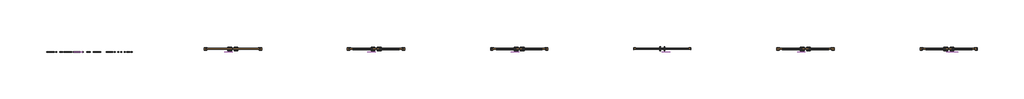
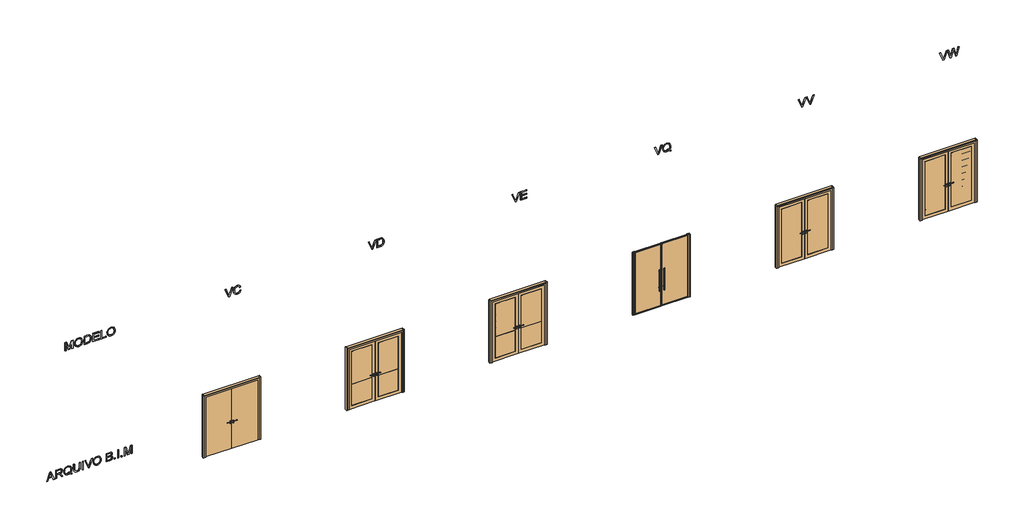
# One storey: 8 proxies, 6 doors.
"""IFC4 building model written with IfcOpenShell, lengths in millimetres."""

from ifc_helpers import new_model, si_unit, frame, origin, place, context, project, spatial, polyline, outline, extrude, transform, mapped, element, save
from components import vc_ec550be7, vd_505fe819, ve_1859068e, vq_b7f1955d, vv_b9688fd8, vw_93026b2b

model = new_model("IFC4")

# Units and contexts
model_context = context("Model", 3, world=origin())
ifc_project = project(units=[si_unit("LENGTHUNIT", "METRE", prefix="MILLI")], contexts=[model_context])

# Site, building, storey
site = spatial("IfcSite", under=ifc_project)
building = spatial("IfcBuilding", under=site)
storey = spatial("IfcBuildingStorey", under=building, Name="06 - Marelli - Planta Baixa - Porta de Giro (02 Folhas)", Elevation=60000.0)

# Proxies
placement = place(None, origin())
element("IfcBuildingElementProxy", 1, Name="300mm Arial", ObjectType="300mm Arial", at=placement, inside=storey, context=model_context, shape_type="SweptSolid", body=[
    extrude(outline(polyline([(61100.0, -7636.3146377), (61100.0, -7596.5098058), (61194.1777908, -7562.076051), (61194.1777908, -7437.9526659), (61100.0, -7403.4453347), (61100.0, -7363.6405028), (61401.3689304, -7483.9379153), (61401.3689304, -7516.0172252), (61100.0, -7636.3146377)]), holes=[polyline([(61231.8489071, -7548.243688), (61312.415064, -7518.739552), (61363.6978141, -7499.9775703), (61305.9403409, -7478.8611437), (61231.8489071, -7451.7114525), (61231.8489071, -7548.243688)])]), frame((0.0, 8778.3159498, 0.0), z_axis=(0.0, 1.0, 0.0), x_axis=(0.0, 0.0, 1.0)), (0.0, 0.0, 1.0), 10.0),
    extrude(outline(polyline([(61100.0, -7323.3942126), (61100.0, -7285.7230963), (61231.8489071, -7285.7230963), (61231.8489071, -7240.2528817), (61230.5245319, -7218.4006911), (61223.350833, -7200.484838), (61203.816299, -7180.582422), (61162.4663628, -7152.2555084), (61100.0, -7113.0392877), (61100.0, -7069.2613303), (61181.6698029, -7119.5140108), (61220.4445652, -7150.0482164), (61236.5577966, -7171.4589486), (61246.5457928, -7134.3488523), (61254.5610217, -7119.9669655), (61264.5904046, -7108.3671864), (61289.2017101, -7093.0540983), (61318.8897871, -7087.9497357), (61342.7561316, -7091.0307474), (61364.4703663, -7100.2737825), (61381.9815493, -7114.6763626), (61393.2387384, -7133.2360093), (61399.3363824, -7158.629064), (61401.3689304, -7193.5318683), (61401.3689304, -7323.3942126), (61100.0, -7323.3942126)]), holes=[polyline([(61269.5200234, -7285.7230963), (61363.6978141, -7285.7230963), (61363.6978141, -7191.9131875), (61360.4420585, -7162.1055488), (61350.6747915, -7141.5501423), (61335.8675412, -7129.6031746), (61317.4918355, -7125.620852), (61304.1837044, -7127.7085823), (61291.9240369, -7133.9717732), (61281.7888879, -7144.254075), (61274.8543123, -7158.3991377), (61270.8535956, -7177.1887106), (61269.5200234, -7201.404543), (61269.5200234, -7285.7230963)])]), frame((0.0, 8778.3159498, 0.0), z_axis=(0.0, 1.0, 0.0), x_axis=(0.0, 0.0, 1.0)), (0.0, 0.0, 1.0), 10.0),
    extrude(outline(polyline([(61136.1260119, -6795.6307023), (61159.6520655, -6777.1814202), (61186.9673037, -6764.0664271), (61218.0349382, -6756.2305406), (61252.8181808, -6753.6185784), (61294.6463636, -6757.9227978), (61331.9863862, -6770.8354558), (61363.1827793, -6791.9610794), (61386.5800742, -6820.9041954), (61401.2033836, -6855.7702114), (61406.07782, -6894.6645354), (61401.3137481, -6933.2553567), (61387.0215326, -6967.9466288), (61363.6150407, -6996.93573), (61331.5081396, -7018.4200386), (61293.055274, -7031.7189727), (61250.6108888, -7036.1519507), (61208.2032918, -7031.7097756), (61170.3022493, -7018.3832504), (61138.6460036, -6996.8161684), (61114.9727972, -6967.6523232), (61100.2115321, -6932.8322924), (61095.2911105, -6894.2966534), (61099.5585416, -6855.9449554), (61112.360835, -6821.0881364), (61091.52032, -6790.1308665), (61077.1177399, -6759.063232), (61104.7088895, -6748.9096889), (61117.5295771, -6771.2953083), (61136.1260119, -6795.6307023)]), holes=[polyline([(61186.2315397, -6883.9223811), (61157.3895912, -6893.6344658), (61150.712533, -6873.2721974), (61140.6877487, -6853.9767867), (61134.8936072, -6873.6032912), (61132.9622268, -6894.5173826), (61134.8637168, -6916.2385151), (61140.568187, -6935.9316982), (61150.0756373, -6953.5969318), (61163.3860678, -6969.2342158), (61180.251158, -6982.0296115), (61200.4225876, -6991.1691798), (61223.9003567, -6996.6529208), (61250.6844652, -6998.4808344), (61278.1859436, -6996.6322274), (61302.0499888, -6991.0864063), (61322.2766007, -6981.8433712), (61338.8657795, -6968.903122), (61351.7899338, -6953.1577726), (61361.0214726, -6935.4994369), (61366.5603959, -6915.9281147), (61368.4067037, -6894.4438062), (61364.7554749, -6865.9605427), (61353.8017885, -6840.4019411), (61336.2354232, -6819.2027411), (61312.7461578, -6803.7976826), (61284.0605592, -6794.4166917), (61250.9051944, -6791.2896947), (61221.7321522, -6793.5015852), (61196.4586591, -6800.1372567), (61175.0847152, -6811.1967092), (61157.6103204, -6826.6799427), (61174.2569807, -6852.2477413), (61186.2315397, -6883.9223811)])]), frame((0.0, 8778.3159498, 0.0), z_axis=(0.0, 1.0, 0.0), x_axis=(0.0, 0.0, 1.0)), (0.0, 0.0, 1.0), 10.0),
    extrude(outline(polyline([(61401.3689304, -6499.3385434), (61228.8322747, -6499.3385434), (61181.6698029, -6504.1026152), (61164.9311721, -6510.057705), (61152.7542781, -6518.3948307), (61144.0952556, -6529.5278596), (61137.9102396, -6543.8706589), (61132.9622268, -6582.1855687), (61135.4638243, -6606.3554158), (61142.968617, -6626.4785609), (61155.0811317, -6641.9112106), (61171.4058953, -6652.0095714), (61194.9779341, -6657.5829836), (61228.8322747, -6659.4407877), (61401.3689304, -6659.4407877), (61401.3689304, -6697.111904), (61227.5078995, -6697.111904), (61184.7324205, -6694.2516215), (61152.0553023, -6685.6707739), (61127.6923172, -6670.4036711), (61109.8592375, -6647.4846228), (61098.9331422, -6616.904432), (61095.2911105, -6578.6539015), (61099.4757682, -6539.5480454), (61112.0297412, -6508.7563224), (61131.2515755, -6486.2235502), (61155.4398167, -6471.8945465), (61186.7925597, -6464.2242069), (61227.5078995, -6461.6674271), (61401.3689304, -6461.6674271), (61401.3689304, -6499.3385434)])), frame((0.0, 8778.3159498, 0.0), z_axis=(0.0, 1.0, 0.0), x_axis=(0.0, 0.0, 1.0)), (0.0, 0.0, 1.0), 10.0),
    extrude(outline(polyline([(-6353.3629677, 8778.3159498), (-6391.034084, 8778.3159498), (-6391.034084, 8788.3159498), (-6353.3629677, 8788.3159498), (-6353.3629677, 8778.3159498)])), frame((0.0, 0.0, 61100.0), z_axis=(0.0, 0.0, 1.0), x_axis=(1.0, 0.0, 0.0)), (0.0, 0.0, 1.0), 301.3689304),
    extrude(outline(polyline([(61100.0, -6188.9932922), (61100.0, -6150.0713771), (61401.3689304, -6035.2186183), (61401.3689304, -6075.5384849), (61184.2449769, -6156.0310655), (61135.3166715, -6172.0707205), (61184.2449769, -6188.3311046), (61401.3689304, -6268.602956), (61401.3689304, -6308.9228227), (61100.0, -6188.9932922)])), frame((0.0, 8778.3159498, 0.0), z_axis=(0.0, 1.0, 0.0), x_axis=(0.0, 0.0, 1.0)), (0.0, 0.0, 1.0), 10.0),
    extrude(outline(polyline([(61246.7113397, -6014.3229209), (61208.1665036, -6010.0187016), (61171.7002009, -5997.1060436), (61140.007167, -5975.8424642), (61115.7821376, -5946.485481), (61100.4138672, -5910.8377157), (61095.2911105, -5870.70179), (61099.9264236, -5832.892718), (61113.832363, -5797.7507904), (61136.7514113, -5767.7868019), (61168.4260511, -5745.5115471), (61206.8881137, -5731.6883811), (61250.1694304, -5727.0806591), (61292.8805301, -5731.4584548), (61330.8091638, -5744.5918421), (61362.4286213, -5766.0761506), (61386.2121922, -5795.5067102), (61401.1114131, -5830.9521404), (61406.07782, -5870.4810608), (61403.4336681, -5900.7715446), (61395.5012126, -5928.1465636), (61382.2804534, -5952.6061177), (61363.7713905, -5974.1502071), (61340.5902263, -5991.7257694), (61313.3531631, -6004.2797425), (61282.0602009, -6011.8121263), (61246.7113397, -6014.3229209)]), holes=[polyline([(61246.3434577, -5976.6518046), (61276.8799625, -5974.6882345), (61302.7121764, -5968.797524), (61323.8400992, -5958.9796733), (61340.263731, -5945.2346822), (61352.5762816, -5928.7673644), (61361.3709605, -5910.7825334), (61366.6477679, -5891.2801891), (61368.4067037, -5870.2603316), (61364.7554749, -5841.0964864), (61353.8017885, -5814.9676677), (61336.2078321, -5793.3086153), (61312.6357932, -5777.5540688), (61283.8122389, -5767.9523488), (61250.463736, -5764.7517754), (61223.9256486, -5766.6210758), (61200.5973316, -5772.228977), (61180.478785, -5781.5754789), (61163.5700088, -5794.6605816), (61150.1791041, -5810.642755), (61140.6141723, -5828.6804691), (61134.8752131, -5848.7737238), (61132.9622268, -5870.9225192), (61134.856819, -5892.6988341), (61140.5405959, -5912.557564), (61150.0135572, -5930.4987091), (61163.2757032, -5946.5222692), (61179.8349915, -5959.703941), (61199.19938, -5969.1194208), (61221.3688687, -5974.7687087), (61246.3434577, -5976.6518046)])]), frame((0.0, 8778.3159498, 0.0), z_axis=(0.0, 1.0, 0.0), x_axis=(0.0, 0.0, 1.0)), (0.0, 0.0, 1.0), 10.0),
    extrude(outline(polyline([(61100.0, -5557.5606357), (61100.0, -5443.4436408), (61105.1871361, -5395.1407348), (61111.6066769, -5377.10532), (61120.4910271, -5362.3624491), (61132.7598917, -5350.3235108), (61149.3329756, -5340.399894), (61168.8215242, -5333.7504269), (61189.8367832, -5331.5339379), (61215.055094, -5334.7804965), (61236.7049494, -5344.5201723), (61253.6643094, -5360.2931129), (61264.8111338, -5381.6394656), (61276.5557665, -5363.7695977), (61291.4825785, -5351.0684718), (61308.543106, -5343.4809057), (61326.6888854, -5340.951717), (61346.4073604, -5343.9591523), (61365.2429185, -5352.9814582), (61381.2549824, -5367.3104619), (61392.5029744, -5386.2379906), (61399.1524414, -5410.9320695), (61401.3689304, -5442.560724), (61401.3689304, -5557.5606357), (61100.0, -5557.5606357)]), holes=[polyline([(61278.9378025, -5519.8895194), (61363.6978141, -5519.8895194), (61363.6978141, -5456.3195106), (61359.7614768, -5407.9062401), (61354.1604734, -5395.4166463), (61345.230138, -5386.2012024), (61333.7890079, -5380.5174255), (61320.6556207, -5378.6228333), (61307.1267603, -5380.6553813), (61296.1178916, -5386.7530254), (61287.7577733, -5396.8605832), (61282.175164, -5410.9228724), (61278.9378025, -5451.0955863), (61278.9378025, -5519.8895194)]), polyline([(61137.6711163, -5519.8895194), (61241.2666861, -5519.8895194), (61241.2666861, -5446.3131204), (61240.0066903, -5419.4853259), (61236.2267028, -5399.776048), (61229.3381125, -5385.8609115), (61218.752308, -5376.4155413), (61205.2142506, -5371.007676), (61189.4689012, -5369.2050542), (61175.9124497, -5370.7409615), (61164.0850436, -5375.3486835), (61147.3464128, -5391.0204565), (61139.1426443, -5414.6752688), (61137.6711163, -5442.6343004), (61137.6711163, -5519.8895194)])]), frame((0.0, 8778.3159498, 0.0), z_axis=(0.0, 1.0, 0.0), x_axis=(0.0, 0.0, 1.0)), (0.0, 0.0, 1.0), 10.0),
    extrude(outline(polyline([(-5237.3561471, 8778.3159498), (-5275.0272634, 8778.3159498), (-5275.0272634, 8788.3159498), (-5237.3561471, 8788.3159498), (-5237.3561471, 8778.3159498)])), frame((0.0, 0.0, 61100.0), z_axis=(0.0, 0.0, 1.0), x_axis=(1.0, 0.0, 0.0)), (0.0, 0.0, 1.0), 37.6711163),
    extrude(outline(polyline([(-5119.6339087, 8778.3159498), (-5157.305025, 8778.3159498), (-5157.305025, 8788.3159498), (-5119.6339087, 8788.3159498), (-5119.6339087, 8778.3159498)])), frame((0.0, 0.0, 61100.0), z_axis=(0.0, 0.0, 1.0), x_axis=(1.0, 0.0, 0.0)), (0.0, 0.0, 1.0), 301.3689304),
    extrude(outline(polyline([(-5001.9116702, 8778.3159498), (-5039.5827865, 8778.3159498), (-5039.5827865, 8788.3159498), (-5001.9116702, 8788.3159498), (-5001.9116702, 8778.3159498)])), frame((0.0, 0.0, 61100.0), z_axis=(0.0, 0.0, 1.0), x_axis=(1.0, 0.0, 0.0)), (0.0, 0.0, 1.0), 37.6711163),
    extrude(outline(polyline([(61100.0, -4926.5694376), (61100.0, -4888.8983213), (61363.6978141, -4888.8983213), (61100.0, -4813.1882067), (61100.0, -4762.1261857), (61363.6978141, -4686.4160711), (61100.0, -4686.4160711), (61100.0, -4648.7449548), (61401.3689304, -4648.7449548), (61401.3689304, -4713.5657624), (61192.6326864, -4774.1927152), (61144.5872978, -4787.6571962), (61188.9538664, -4800.0916076), (61401.3689304, -4861.74863), (61401.3689304, -4926.5694376), (61100.0, -4926.5694376)])), frame((0.0, 8778.3159498, 0.0), z_axis=(0.0, 1.0, 0.0), x_axis=(0.0, 0.0, 1.0)), (0.0, 0.0, 1.0), 10.0),
])
element("IfcBuildingElementProxy", 2, Name="300mm Arial", ObjectType="300mm Arial", at=placement, inside=storey, context=model_context, shape_type="SweptSolid", body=[
    extrude(outline(polyline([(65700.0, -6993.7719449), (65700.0, -6956.1008286), (65963.6978141, -6956.1008286), (65700.0, -6880.390714), (65700.0, -6829.328693), (65963.6978141, -6753.6185784), (65700.0, -6753.6185784), (65700.0, -6715.9474621), (66001.3689304, -6715.9474621), (66001.3689304, -6780.7682697), (65792.6326864, -6841.3952225), (65744.5872978, -6854.8597035), (65788.9538664, -6867.2941149), (66001.3689304, -6928.9511373), (66001.3689304, -6993.7719449), (65700.0, -6993.7719449)])), frame((0.0, 8778.3159498, 0.0), z_axis=(0.0, 1.0, 0.0), x_axis=(0.0, 0.0, 1.0)), (0.0, 0.0, 1.0), 10.0),
    extrude(outline(polyline([(65846.7113397, -6664.1496772), (65808.1665036, -6659.8454579), (65771.7002009, -6646.9327998), (65740.007167, -6625.6692205), (65715.7821376, -6596.3122373), (65700.4138672, -6560.664472), (65695.2911105, -6520.5285463), (65699.9264236, -6482.7194742), (65713.832363, -6447.5775466), (65736.7514113, -6417.6135581), (65768.4260511, -6395.3383033), (65806.8881137, -6381.5151374), (65850.1694304, -6376.9074154), (65892.8805301, -6381.2852111), (65930.8091638, -6394.4185983), (65962.4286213, -6415.9029069), (65986.2121922, -6445.3334665), (66001.1114131, -6480.7788967), (66006.07782, -6520.3078171), (66003.4336681, -6550.5983009), (65995.5012126, -6577.9733198), (65982.2804534, -6602.432874), (65963.7713905, -6623.9769633), (65940.5902263, -6641.5525257), (65913.3531631, -6654.1064987), (65882.0602009, -6661.6388826), (65846.7113397, -6664.1496772)]), holes=[polyline([(65846.3434577, -6626.4785609), (65876.8799625, -6624.5149908), (65902.7121764, -6618.6242803), (65923.8400992, -6608.8064296), (65940.263731, -6595.0614385), (65952.5762816, -6578.5941207), (65961.3709605, -6560.6092897), (65966.6477679, -6541.1069454), (65968.4067037, -6520.0870879), (65964.7554749, -6490.9232427), (65953.8017885, -6464.794424), (65936.2078321, -6443.1353716), (65912.6357932, -6427.3808251), (65883.8122389, -6417.779105), (65850.463736, -6414.5785317), (65823.9256486, -6416.4478321), (65800.5973316, -6422.0557332), (65780.478785, -6431.4022352), (65763.5700088, -6444.4873379), (65750.1791041, -6460.4695113), (65740.6141723, -6478.5072254), (65734.8752131, -6498.6004801), (65732.9622268, -6520.7492755), (65734.856819, -6542.5255903), (65740.5405959, -6562.3843203), (65750.0135572, -6580.3254653), (65763.2757032, -6596.3490255), (65779.8349915, -6609.5306972), (65799.19938, -6618.9461771), (65821.3688687, -6624.5954649), (65846.3434577, -6626.4785609)])]), frame((0.0, 8778.3159498, 0.0), z_axis=(0.0, 1.0, 0.0), x_axis=(0.0, 0.0, 1.0)), (0.0, 0.0, 1.0), 10.0),
    extrude(outline(polyline([(65700.0, -6325.1096305), (65700.0, -6216.1429835), (65705.1503479, -6167.6929247), (65711.5055094, -6148.1491937), (65720.2702979, -6131.6772774), (65732.088507, -6117.3298796), (65747.6039302, -6104.1597042), (65767.2580258, -6092.7185741), (65791.4922522, -6083.5583124), (65819.9571216, -6077.5434418), (65852.303146, -6075.5384849), (65890.3789325, -6078.499935), (65923.9665587, -6087.3842852), (65952.5142015, -6102.2283237), (65975.470038, -6123.0688387), (65988.6586075, -6143.3391366), (65997.0279229, -6167.3618309), (66001.3689304, -6221.1461786), (66001.3689304, -6325.1096305), (65700.0, -6325.1096305)]), holes=[polyline([(65737.6711163, -6287.4385141), (65963.6978141, -6287.4385141), (65963.6978141, -6221.8083662), (65962.189498, -6190.06015), (65957.6645494, -6168.3919005), (65945.0829852, -6147.10073), (65924.2608643, -6129.2860444), (65893.9473879, -6117.228712), (65852.8917572, -6113.2096012), (65821.9068962, -6115.2605434), (65795.9068361, -6121.4133697), (65774.7996067, -6131.245016), (65758.4932372, -6144.332418), (65749.6824634, -6156.5093121), (65743.1157698, -6172.2914497), (65739.0322797, -6193.2055411), (65737.6711163, -6220.7782966), (65737.6711163, -6287.4385141)])]), frame((0.0, 8778.3159498, 0.0), z_axis=(0.0, 1.0, 0.0), x_axis=(0.0, 0.0, 1.0)), (0.0, 0.0, 1.0), 10.0),
    extrude(outline(polyline([(65700.0, -6023.7407), (65700.0, -5802.4228917), (65737.6711163, -5802.4228917), (65737.6711163, -5986.0695837), (65836.5577966, -5986.0695837), (65836.5577966, -5816.5495603), (65874.2289129, -5816.5495603), (65874.2289129, -5986.0695837), (65963.6978141, -5986.0695837), (65963.6978141, -5807.1317812), (66001.3689304, -5807.1317812), (66001.3689304, -6023.7407), (65700.0, -6023.7407)])), frame((0.0, 8778.3159498, 0.0), z_axis=(0.0, 1.0, 0.0), x_axis=(0.0, 0.0, 1.0)), (0.0, 0.0, 1.0), 10.0),
    extrude(outline(polyline([(65700.0, -5745.9162172), (65700.0, -5557.5606357), (65737.6711163, -5557.5606357), (65737.6711163, -5708.2451009), (66001.3689304, -5708.2451009), (66001.3689304, -5745.9162172), (65700.0, -5745.9162172)])), frame((0.0, 8778.3159498, 0.0), z_axis=(0.0, 1.0, 0.0), x_axis=(0.0, 0.0, 1.0)), (0.0, 0.0, 1.0), 10.0),
    extrude(outline(polyline([(65846.7113397, -5529.3072985), (65808.1665036, -5525.0030791), (65771.7002009, -5512.0904211), (65740.007167, -5490.8268418), (65715.7821376, -5461.4698586), (65700.4138672, -5425.8220932), (65695.2911105, -5385.6861676), (65699.9264236, -5347.8770955), (65713.832363, -5312.7351679), (65736.7514113, -5282.7711794), (65768.4260511, -5260.4959246), (65806.8881137, -5246.6727586), (65850.1694304, -5242.0650367), (65892.8805301, -5246.4428324), (65930.8091638, -5259.5762196), (65962.4286213, -5281.0605281), (65986.2121922, -5310.4910878), (66001.1114131, -5345.936518), (66006.07782, -5385.4654384), (66003.4336681, -5415.7559222), (65995.5012126, -5443.1309411), (65982.2804534, -5467.5904953), (65963.7713905, -5489.1345846), (65940.5902263, -5506.7101469), (65913.3531631, -5519.26412), (65882.0602009, -5526.7965039), (65846.7113397, -5529.3072985)]), holes=[polyline([(65846.3434577, -5491.6361822), (65876.8799625, -5489.672612), (65902.7121764, -5483.7819016), (65923.8400992, -5473.9640508), (65940.263731, -5460.2190598), (65952.5762816, -5443.751742), (65961.3709605, -5425.7669109), (65966.6477679, -5406.2645667), (65968.4067037, -5385.2447092), (65964.7554749, -5356.080864), (65953.8017885, -5329.9520453), (65936.2078321, -5308.2929928), (65912.6357932, -5292.5384464), (65883.8122389, -5282.9367263), (65850.463736, -5279.736153), (65823.9256486, -5281.6054533), (65800.5973316, -5287.2133545), (65780.478785, -5296.5598565), (65763.5700088, -5309.6449592), (65750.1791041, -5325.6271326), (65740.6141723, -5343.6648467), (65734.8752131, -5363.7581014), (65732.9622268, -5385.9068968), (65734.856819, -5407.6832116), (65740.5405959, -5427.5419416), (65750.0135572, -5445.4830866), (65763.2757032, -5461.5066468), (65779.8349915, -5474.6883185), (65799.19938, -5484.1037983), (65821.3688687, -5489.7530862), (65846.3434577, -5491.6361822)])]), frame((0.0, 8778.3159498, 0.0), z_axis=(0.0, 1.0, 0.0), x_axis=(0.0, 0.0, 1.0)), (0.0, 0.0, 1.0), 10.0),
])
element("IfcBuildingElementProxy", 3, Name="300mm Arial", ObjectType="300mm Arial", at=placement, inside=storey, context=model_context, shape_type="SweptSolid", body=[
    extrude(outline(polyline([(65700.0, -1292.5888621), (65700.0, -1253.666947), (66001.3689304, -1138.8141881), (66001.3689304, -1179.1340548), (65784.2449769, -1259.6266353), (65735.3166715, -1275.6662903), (65784.2449769, -1291.9266745), (66001.3689304, -1372.1985258), (66001.3689304, -1412.5183925), (65700.0, -1292.5888621)])), frame((0.0, 8778.3159498, 0.0), z_axis=(0.0, 1.0, 0.0), x_axis=(0.0, 0.0, 1.0)), (0.0, 0.0, 1.0), 10.0),
    extrude(outline(polyline([(65807.127237, -891.8917929), (65774.863986, -904.077884), (65751.6506321, -923.8607383), (65737.6343281, -950.0631334), (65732.9622268, -981.507847), (65736.3927264, -1008.4827943), (65746.6842252, -1033.4895729), (65763.9102996, -1054.348482), (65788.144526, -1068.8798208), (65818.2372732, -1077.4054861), (65853.03891, -1080.2473745), (65881.4577941, -1077.8469444), (65909.0305497, -1070.6456544), (65933.4211259, -1057.5214642), (65952.2934723, -1037.3523338), (65964.3783958, -1010.7728597), (65968.4067037, -978.4176382), (65964.773869, -950.348242), (65953.8753649, -927.5027701), (65935.0306097, -909.6604933), (65907.5590217, -896.6006825), (65916.5353424, -858.9295662), (65954.3536115, -875.5670294), (65969.6758966, -887.3691437), (65982.6069487, -901.493513), (65992.8754549, -917.673423), (66000.2101022, -935.6421592), (66006.07782, -976.9461102), (66001.5436744, -1014.8011675), (65987.9412376, -1049.3452869), (65965.6016035, -1078.4723438), (65934.8558657, -1100.076214), (65896.9088379, -1113.4579216), (65852.9653336, -1117.9184908), (65811.3026976, -1113.9729564), (65772.3991767, -1102.1363532), (65739.3081912, -1082.748972), (65715.0831618, -1056.1511038), (65700.2391233, -1021.4506346), (65695.2911105, -977.7554506), (65696.9258861, -955.333043), (65701.8302129, -934.7132572), (65710.004091, -915.8960931), (65721.4475203, -898.8815508), (65736.004151, -884.0053227), (65753.5176332, -871.6031009), (65773.987967, -861.6748856), (65797.4151523, -854.2206766), (65807.127237, -891.8917929)])), frame((0.0, 8778.3159498, 0.0), z_axis=(0.0, 1.0, 0.0), x_axis=(0.0, 0.0, 1.0)), (0.0, 0.0, 1.0), 10.0),
])
element("IfcBuildingElementProxy", 4, Name="300mm Arial", ObjectType="300mm Arial", at=placement, inside=storey, context=model_context, shape_type="SweptSolid", body=[
    extrude(outline(polyline([(65700.0, 3707.4111379), (65700.0, 3746.333053), (66001.3689304, 3861.1858119), (66001.3689304, 3820.8659452), (65784.2449769, 3740.3733647), (65735.3166715, 3724.3337097), (65784.2449769, 3708.0733255), (66001.3689304, 3627.8014742), (66001.3689304, 3587.4816075), (65700.0, 3707.4111379)])), frame((0.0, 8778.3159498, 0.0), z_axis=(0.0, 1.0, 0.0), x_axis=(0.0, 0.0, 1.0)), (0.0, 0.0, 1.0), 10.0),
    extrude(outline(polyline([(65700.0, 3896.2081778), (65700.0, 4005.1748248), (65705.1503479, 4053.6248836), (65711.5055094, 4073.1686146), (65720.2702979, 4089.6405309), (65732.088507, 4103.9879287), (65747.6039302, 4117.1581041), (65767.2580258, 4128.5992342), (65791.4922522, 4137.7594959), (65819.9571216, 4143.7743665), (65852.303146, 4145.7793234), (65890.3789325, 4142.8178733), (65923.9665587, 4133.9335231), (65952.5142015, 4119.0894846), (65975.470038, 4098.2489696), (65988.6586075, 4077.9786717), (65997.0279229, 4053.9559774), (66001.3689304, 4000.1716297), (66001.3689304, 3896.2081778), (65700.0, 3896.2081778)]), holes=[polyline([(65737.6711163, 3933.8792942), (65963.6978141, 3933.8792942), (65963.6978141, 3999.5094421), (65962.189498, 4031.2576583), (65957.6645494, 4052.9259078), (65945.0829852, 4074.2170783), (65924.2608643, 4092.0317639), (65893.9473879, 4104.0890963), (65852.8917572, 4108.1082071), (65821.9068962, 4106.0572649), (65795.9068361, 4099.9044386), (65774.7996067, 4090.0727923), (65758.4932372, 4076.9853903), (65749.6824634, 4064.8084962), (65743.1157698, 4049.0263586), (65739.0322797, 4028.1122672), (65737.6711163, 4000.5395117), (65737.6711163, 3933.8792942)])]), frame((0.0, 8778.3159498, 0.0), z_axis=(0.0, 1.0, 0.0), x_axis=(0.0, 0.0, 1.0)), (0.0, 0.0, 1.0), 10.0),
])
element("IfcBuildingElementProxy", 5, Name="300mm Arial", ObjectType="300mm Arial", at=placement, inside=storey, context=model_context, shape_type="SweptSolid", body=[
    extrude(outline(polyline([(65700.0, 8719.1833618), (65700.0, 8758.1052769), (66001.3689304, 8872.9580357), (66001.3689304, 8832.6381691), (65784.2449769, 8752.1455885), (65735.3166715, 8736.1059335), (65784.2449769, 8719.8455494), (66001.3689304, 8639.573698), (66001.3689304, 8599.2538313), (65700.0, 8719.1833618)])), frame((0.0, 8778.3159498, 0.0), z_axis=(0.0, 1.0, 0.0), x_axis=(0.0, 0.0, 1.0)), (0.0, 0.0, 1.0), 10.0),
    extrude(outline(polyline([(65700.0, 8907.9804017), (65700.0, 9129.29821), (65737.6711163, 9129.29821), (65737.6711163, 8945.651518), (65836.5577966, 8945.651518), (65836.5577966, 9115.1715414), (65874.2289129, 9115.1715414), (65874.2289129, 8945.651518), (65963.6978141, 8945.651518), (65963.6978141, 9124.5893205), (66001.3689304, 9124.5893205), (66001.3689304, 8907.9804017), (65700.0, 8907.9804017)])), frame((0.0, 8778.3159498, 0.0), z_axis=(0.0, 1.0, 0.0), x_axis=(0.0, 0.0, 1.0)), (0.0, 0.0, 1.0), 10.0),
])
element("IfcBuildingElementProxy", 6, Name="300mm Arial", ObjectType="300mm Arial", at=placement, inside=storey, context=model_context, shape_type="SweptSolid", body=[
    extrude(outline(polyline([(65700.0, 13695.6389141), (65700.0, 13734.5608292), (66001.3689304, 13849.4135881), (66001.3689304, 13809.0937214), (65784.2449769, 13728.6011408), (65735.3166715, 13712.5614859), (65784.2449769, 13696.3011017), (66001.3689304, 13616.0292503), (66001.3689304, 13575.7093836), (65700.0, 13695.6389141)])), frame((0.0, 8778.3159498, 0.0), z_axis=(0.0, 1.0, 0.0), x_axis=(0.0, 0.0, 1.0)), (0.0, 0.0, 1.0), 10.0),
    extrude(outline(polyline([(65736.1260119, 14110.8305338), (65759.6520655, 14129.2798159), (65786.9673037, 14142.394809), (65818.0349382, 14150.2306955), (65852.8181808, 14152.8426577), (65894.6463636, 14148.5384383), (65931.9863862, 14135.6257803), (65963.1827793, 14114.5001567), (65986.5800742, 14085.5570408), (66001.2033836, 14050.6910247), (66006.07782, 14011.7967007), (66001.3137481, 13973.2058794), (65987.0215326, 13938.5146073), (65963.6150407, 13909.5255061), (65931.5081396, 13888.0411976), (65893.055274, 13874.7422634), (65850.6108888, 13870.3092854), (65808.2032918, 13874.7514605), (65770.3022493, 13888.0779858), (65738.6460036, 13909.6450677), (65714.9727972, 13938.8089129), (65700.2115321, 13973.6289437), (65695.2911105, 14012.1645827), (65699.5585416, 14050.5162807), (65712.360835, 14085.3730998), (65691.52032, 14116.3303697), (65677.1177399, 14147.3980042), (65704.7088895, 14157.5515472), (65717.5295771, 14135.1659278), (65736.1260119, 14110.8305338)]), holes=[polyline([(65786.2315397, 14022.538855), (65757.3895912, 14012.8267703), (65750.712533, 14033.1890387), (65740.6877487, 14052.4844494), (65734.8936072, 14032.857945), (65732.9622268, 14011.9438535), (65734.8637168, 13990.222721), (65740.568187, 13970.5295379), (65750.0756373, 13952.8643044), (65763.3860678, 13937.2270203), (65780.251158, 13924.4316247), (65800.4225876, 13915.2920563), (65823.9003567, 13909.8083154), (65850.6844652, 13907.9804017), (65878.1859436, 13909.8290087), (65902.0499888, 13915.3748298), (65922.2766007, 13924.6178649), (65938.8657795, 13937.5581141), (65951.7899338, 13953.3034635), (65961.0214726, 13970.9617993), (65966.5603959, 13990.5331214), (65968.4067037, 14012.0174299), (65964.7554749, 14040.5006934), (65953.8017885, 14066.059295), (65936.2354232, 14087.258495), (65912.7461578, 14102.6635535), (65884.0605592, 14112.0445444), (65850.9051944, 14115.1715414), (65821.7321522, 14112.9596509), (65796.4586591, 14106.3239794), (65775.0847152, 14095.2645269), (65757.6103204, 14079.7812934), (65774.2569807, 14054.2134948), (65786.2315397, 14022.538855)])]), frame((0.0, 8778.3159498, 0.0), z_axis=(0.0, 1.0, 0.0), x_axis=(0.0, 0.0, 1.0)), (0.0, 0.0, 1.0), 10.0),
])
element("IfcBuildingElementProxy", 7, Name="300mm Arial", ObjectType="300mm Arial", at=placement, inside=storey, context=model_context, shape_type="SweptSolid", body=[
    extrude(outline(polyline([(65700.0, 18719.1833618), (65700.0, 18758.1052769), (66001.3689304, 18872.9580357), (66001.3689304, 18832.6381691), (65784.2449769, 18752.1455885), (65735.3166715, 18736.1059335), (65784.2449769, 18719.8455494), (66001.3689304, 18639.573698), (66001.3689304, 18599.2538313), (65700.0, 18719.1833618)])), frame((0.0, 8778.3159498, 0.0), z_axis=(0.0, 1.0, 0.0), x_axis=(0.0, 0.0, 1.0)), (0.0, 0.0, 1.0), 10.0),
    extrude(outline(polyline([(65700.0, 18997.0078445), (65700.0, 19035.9297596), (66001.3689304, 19150.7825185), (66001.3689304, 19110.4626518), (65784.2449769, 19029.9700713), (65735.3166715, 19013.9304163), (65784.2449769, 18997.6700321), (66001.3689304, 18917.3981808), (66001.3689304, 18877.0783141), (65700.0, 18997.0078445)])), frame((0.0, 8778.3159498, 0.0), z_axis=(0.0, 1.0, 0.0), x_axis=(0.0, 0.0, 1.0)), (0.0, 0.0, 1.0), 10.0),
])
element("IfcBuildingElementProxy", 8, Name="300mm Arial", ObjectType="300mm Arial", at=placement, inside=storey, context=model_context, shape_type="SweptSolid", body=[
    extrude(outline(polyline([(65700.0, 23648.5500187), (65700.0, 23687.4719338), (66001.3689304, 23802.3246927), (66001.3689304, 23762.004826), (65784.2449769, 23681.5122455), (65735.3166715, 23665.4725905), (65784.2449769, 23649.2122063), (66001.3689304, 23568.9403549), (66001.3689304, 23528.6204883), (65700.0, 23648.5500187)])), frame((0.0, 8778.3159498, 0.0), z_axis=(0.0, 1.0, 0.0), x_axis=(0.0, 0.0, 1.0)), (0.0, 0.0, 1.0), 10.0),
    extrude(outline(polyline([(65700.0, 23891.2785591), (65700.0, 23936.7487737), (65925.879545, 24002.5996508), (65964.9486129, 24013.9304163), (65932.501421, 24024.010383), (65700.0, 24096.2624068), (65700.0, 24136.5086971), (66001.3689304, 24218.7671112), (66001.3689304, 24179.9187725), (65801.5354307, 24131.7998076), (65742.1592766, 24117.5259861), (65797.4887287, 24103.8223818), (65852.671028, 24085.225947), (66001.3689304, 24041.8158715), (66001.3689304, 23985.8242319), (65796.2379299, 23926.0801959), (65742.1592766, 23910.3348465), (65803.3012642, 23895.6195667), (66001.3689304, 23847.9420601), (66001.3689304, 23809.0937214), (65700.0, 23891.2785591)])), frame((0.0, 8778.3159498, 0.0), z_axis=(0.0, 1.0, 0.0), x_axis=(0.0, 0.0, 1.0)), (0.0, 0.0, 1.0), 10.0),
])

# Doors
vc_shape = vc_ec550be7(model_context)
element("IfcDoor", 9, ObjectType="Mobiliário_Mobiliário de Escritório_Porta Dupla de Giro Cega - VC_Marelli : VC", at=placement, inside=storey, context=model_context, shape_type="MappedRepresentation", body=[
    mapped(vc_shape, transform((-1124.9818251, 8888.3159498, 60000.0), x_axis=(-1.0, 0.0, 0.0), y_axis=(0.0, -1.0, 0.0), z_axis=(0.0, 0.0, 1.0))),
])
vd_shape = vd_505fe819(model_context)
element("IfcDoor", 10, ObjectType="Mobiliário_Mobiliário de Escritório_Porta Dupla de Giro Mista Vidro Duplo - VD_Marelli : VD", at=placement, inside=storey, context=model_context, shape_type="MappedRepresentation", body=[
    mapped(vd_shape, transform((3875.0181749, 8888.3159498, 60000.0), x_axis=(-1.0, 0.0, 0.0), y_axis=(0.0, -1.0, 0.0), z_axis=(0.0, 0.0, 1.0))),
])
ve_shape = ve_1859068e(model_context)
element("IfcDoor", 11, ObjectType="Mobiliário_Mobiliário de Escritório_Porta Dupla de Giro Mista Vidro Duplo com Persiana - VE_Marelli : VE", at=placement, inside=storey, context=model_context, shape_type="MappedRepresentation", body=[
    mapped(ve_shape, transform((8875.0181749, 8888.3159498, 60000.0), x_axis=(-1.0, 0.0, 0.0), y_axis=(0.0, -1.0, 0.0), z_axis=(0.0, 0.0, 1.0))),
])
vq_shape = vq_b7f1955d(model_context)
element("IfcDoor", 12, ObjectType="Mobiliário_Mobiliário de Escritório_Porta Dupla de Giro Emoldurada_Marelli : VQ", at=placement, inside=storey, context=model_context, shape_type="MappedRepresentation", body=[
    mapped(vq_shape, transform((13875.0181749, 8888.3159498, 60000.0), x_axis=(1.0, 0.0, 0.0), y_axis=(0.0, 1.0, 0.0), z_axis=(0.0, 0.0, 1.0))),
])
vv_shape = vv_b9688fd8(model_context)
element("IfcDoor", 13, ObjectType="Mobiliário_Mobiliário de Escritório_Porta Dupla de Giro Vidro Duplo - VV_Marelli : VV", at=placement, inside=storey, context=model_context, shape_type="MappedRepresentation", body=[
    mapped(vv_shape, transform((18875.0181749, 8888.3159498, 60000.0), x_axis=(1.0, 0.0, 0.0), y_axis=(0.0, 1.0, 0.0), z_axis=(0.0, 0.0, 1.0))),
])
vw_shape = vw_93026b2b(model_context)
element("IfcDoor", 14, ObjectType="Mobiliário_Mobiliário de Escritório_Porta Dupla de Giro Vidro Duplo com Persiana - VW_Marelli : VW", at=placement, inside=storey, context=model_context, shape_type="MappedRepresentation", body=[
    mapped(vw_shape, transform((23885.0219741, 8888.3159498, 60000.0), x_axis=(1.0, 0.0, 0.0), y_axis=(0.0, 1.0, 0.0), z_axis=(0.0, 0.0, 1.0))),
])

save(model, "model.ifc")
